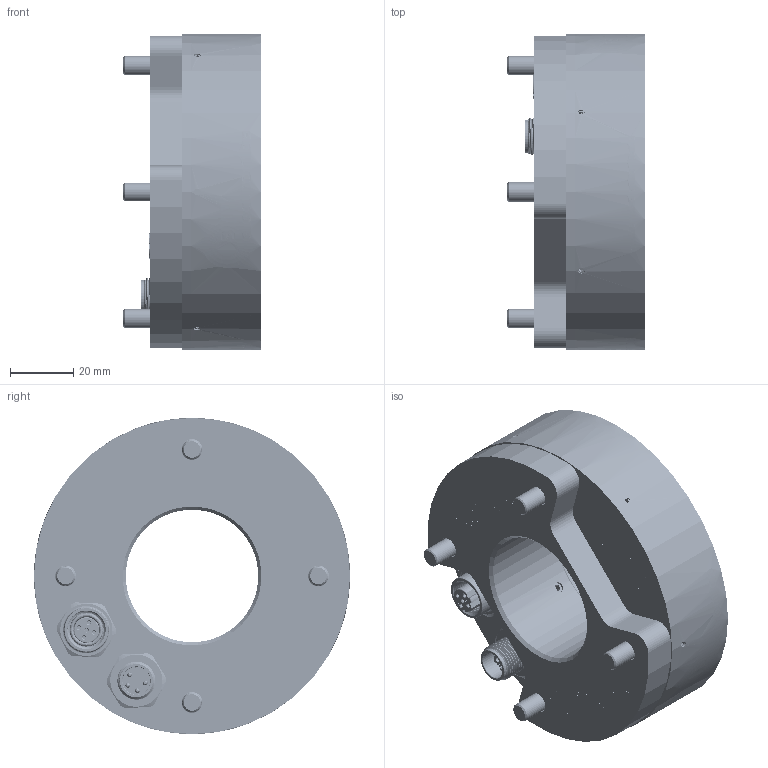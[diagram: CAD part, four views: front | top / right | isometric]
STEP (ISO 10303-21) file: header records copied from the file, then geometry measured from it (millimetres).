
FILE_DESCRIPTION (( 'STEP AP203' ), '1' );
FILE_NAME ('0E012324_IC-BASE F 100_50_zum_Versenden.STEP', '2023-12-19T15:01:02', ( '' ), ( '' ), 'SwSTEP 2.0', 'SolidWorks 2023', '' );
FILE_SCHEMA (( 'CONFIG_CONTROL_DESIGN' ));
Length unit declared in the file: millimetre
Products named in the file (1): 0E012324_IC-BASE F 100_50_zum_Versenden
Bounding box: 43.4 x 100 x 100 mm (x, y, z)
Surface area: 87098.9 mm2 (no closed solid volume)
Topology: 0 solids, 32 shells, 7284 faces, 20140 edges, 13626 vertices
Faces by surface type: plane 4056, bspline 2244, cylinder 677, cone 190, torus 117
Entity records: 348030 total; most frequent: CARTESIAN_POINT 176963, ORIENTED_EDGE 40118, DIRECTION 26517, EDGE_CURVE 20120, VERTEX_POINT 13626, LINE 12949, VECTOR 12949, EDGE_LOOP 8114
